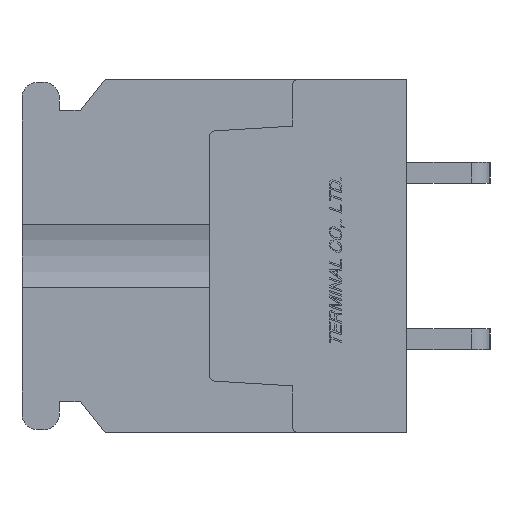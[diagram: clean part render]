
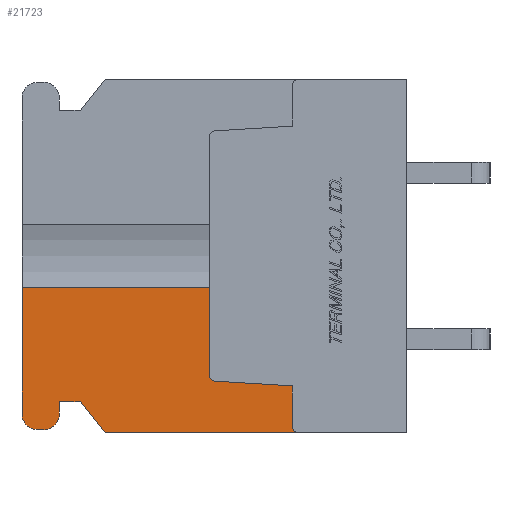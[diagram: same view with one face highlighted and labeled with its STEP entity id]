
A CAD part, left-side view. The second image highlights one B-rep face of the part: STEP entity #21723.
In plain terms, the highlighted planar face has unit normal (-1, 0, 0).
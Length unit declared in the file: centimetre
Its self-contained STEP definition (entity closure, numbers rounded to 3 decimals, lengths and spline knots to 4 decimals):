
#2696=VECTOR('',#27050,1.);
#2697=VECTOR('',#27051,1.);
#2698=VECTOR('',#27052,1.);
#2699=VECTOR('',#27055,1.);
#2700=VECTOR('',#27058,1.);
#2701=VECTOR('',#27059,1.);
#2702=VECTOR('',#27060,1.);
#2703=VECTOR('',#27061,1.);
#2704=VECTOR('',#27064,1.);
#2705=VECTOR('',#27065,1.);
#5006=LINE('',#33962,#2696);
#5007=LINE('',#33965,#2697);
#5008=LINE('',#33967,#2698);
#5009=LINE('',#33971,#2699);
#5010=LINE('',#33975,#2700);
#5011=LINE('',#33977,#2701);
#5012=LINE('',#33979,#2702);
#5013=LINE('',#33981,#2703);
#5014=LINE('',#33985,#2704);
#5015=LINE('',#33987,#2705);
#7267=VERTEX_POINT('',#33963);
#7268=VERTEX_POINT('',#33964);
#7269=VERTEX_POINT('',#33966);
#7270=VERTEX_POINT('',#33968);
#7271=VERTEX_POINT('',#33970);
#7272=VERTEX_POINT('',#33972);
#7273=VERTEX_POINT('',#33974);
#7274=VERTEX_POINT('',#33976);
#7275=VERTEX_POINT('',#33978);
#7276=VERTEX_POINT('',#33980);
#7277=VERTEX_POINT('',#33982);
#7278=VERTEX_POINT('',#33984);
#7279=VERTEX_POINT('',#33986);
#7280=VERTEX_POINT('',#33988);
#8182=CIRCLE('',#37138,0.075);
#8183=CIRCLE('',#37139,0.075);
#8184=CIRCLE('',#37140,0.03);
#8185=CIRCLE('',#37141,0.03);
#10909=EDGE_CURVE('',#7267,#7268,#5006,.T.);
#10910=EDGE_CURVE('',#7267,#7269,#5007,.T.);
#10911=EDGE_CURVE('',#7270,#7269,#5008,.T.);
#10912=EDGE_CURVE('',#7271,#7270,#8182,.T.);
#10913=EDGE_CURVE('',#7272,#7271,#5009,.T.);
#10914=EDGE_CURVE('',#7273,#7272,#8183,.T.);
#10915=EDGE_CURVE('',#7274,#7273,#5010,.T.);
#10916=EDGE_CURVE('',#7275,#7274,#5011,.T.);
#10917=EDGE_CURVE('',#7276,#7275,#5012,.T.);
#10918=EDGE_CURVE('',#7277,#7276,#5013,.T.);
#10919=EDGE_CURVE('',#7278,#7277,#8184,.T.);
#10920=EDGE_CURVE('',#7279,#7278,#5014,.T.);
#10921=EDGE_CURVE('',#7280,#7279,#5015,.T.);
#10922=EDGE_CURVE('',#7268,#7280,#8185,.T.);
#16700=ORIENTED_EDGE('',*,*,#10909,.F.);
#16701=ORIENTED_EDGE('',*,*,#10910,.T.);
#16702=ORIENTED_EDGE('',*,*,#10911,.F.);
#16703=ORIENTED_EDGE('',*,*,#10912,.F.);
#16704=ORIENTED_EDGE('',*,*,#10913,.F.);
#16705=ORIENTED_EDGE('',*,*,#10914,.F.);
#16706=ORIENTED_EDGE('',*,*,#10915,.F.);
#16707=ORIENTED_EDGE('',*,*,#10916,.F.);
#16708=ORIENTED_EDGE('',*,*,#10917,.F.);
#16709=ORIENTED_EDGE('',*,*,#10918,.F.);
#16710=ORIENTED_EDGE('',*,*,#10919,.F.);
#16711=ORIENTED_EDGE('',*,*,#10920,.F.);
#16712=ORIENTED_EDGE('',*,*,#10921,.F.);
#16713=ORIENTED_EDGE('',*,*,#10922,.F.);
#19126=EDGE_LOOP('',(#16700,#16701,#16702,#16703,#16704,#16705,#16706,#16707,
#16708,#16709,#16710,#16711,#16712,#16713));
#20474=FACE_BOUND('',#19126,.T.);
#21723=ADVANCED_FACE('',(#20474),#22591,.F.);
#22591=PLANE('',#37137);
#27049=DIRECTION('',(1.,0.,0.));
#27050=DIRECTION('',(0.,0.,-1.));
#27051=DIRECTION('',(0.,1.,0.));
#27052=DIRECTION('',(0.,0.,1.));
#27053=DIRECTION('',(1.,0.,0.));
#27054=DIRECTION('',(0.,0.,-0.075));
#27055=DIRECTION('',(0.,1.,0.));
#27056=DIRECTION('',(1.,0.,0.));
#27057=DIRECTION('',(0.,0.,-0.075));
#27058=DIRECTION('',(0.,0.,-1.));
#27059=DIRECTION('',(0.,1.,0.));
#27060=DIRECTION('',(0.,0.625,0.781));
#27061=DIRECTION('',(0.,1.,0.));
#27062=DIRECTION('',(-1.,0.,0.));
#27063=DIRECTION('',(0.,0.,0.03));
#27064=DIRECTION('',(0.,0.,-1.));
#27065=DIRECTION('',(0.,-0.998,-0.061));
#27066=DIRECTION('',(-1.,0.,0.));
#27067=DIRECTION('',(0.,0.,0.03));
#33961=CARTESIAN_POINT('',(-1.1,0.9454,0.));
#33962=CARTESIAN_POINT('',(-1.1,0.95,0.5718));
#33963=CARTESIAN_POINT('',(-1.1,0.95,-0.1521));
#33964=CARTESIAN_POINT('',(-1.1,0.95,-0.5718));
#33965=CARTESIAN_POINT('',(-1.1,1.4,-0.1521));
#33966=CARTESIAN_POINT('',(-1.1,1.85,-0.1521));
#33967=CARTESIAN_POINT('',(-1.1,1.85,-0.76));
#33968=CARTESIAN_POINT('',(-1.1,1.85,-0.76));
#33969=CARTESIAN_POINT('',(-1.1,1.775,-0.76));
#33970=CARTESIAN_POINT('',(-1.1,1.775,-0.835));
#33971=CARTESIAN_POINT('',(-1.1,1.745,-0.835));
#33972=CARTESIAN_POINT('',(-1.1,1.745,-0.835));
#33973=CARTESIAN_POINT('',(-1.1,1.745,-0.76));
#33974=CARTESIAN_POINT('',(-1.1,1.67,-0.76));
#33975=CARTESIAN_POINT('',(-1.1,1.67,-0.7));
#33976=CARTESIAN_POINT('',(-1.1,1.67,-0.7));
#33977=CARTESIAN_POINT('',(-1.1,1.57,-0.7));
#33978=CARTESIAN_POINT('',(-1.1,1.57,-0.7));
#33979=CARTESIAN_POINT('',(-1.1,1.45,-0.85));
#33980=CARTESIAN_POINT('',(-1.1,1.45,-0.85));
#33981=CARTESIAN_POINT('',(-1.1,0.,-0.85));
#33982=CARTESIAN_POINT('',(-1.1,0.52,-0.85));
#33983=CARTESIAN_POINT('',(-1.1,0.52,-0.82));
#33984=CARTESIAN_POINT('',(-1.1,0.55,-0.82));
#33985=CARTESIAN_POINT('',(-1.1,0.55,-0.6245));
#33986=CARTESIAN_POINT('',(-1.1,0.55,-0.6245));
#33987=CARTESIAN_POINT('',(-1.1,0.9218,-0.6017));
#33988=CARTESIAN_POINT('',(-1.1,0.9218,-0.6017));
#33989=CARTESIAN_POINT('',(-1.1,0.92,-0.5718));
#37137=AXIS2_PLACEMENT_3D('',#33961,#27049,$);
#37138=AXIS2_PLACEMENT_3D('',#33969,#27053,#27054);
#37139=AXIS2_PLACEMENT_3D('',#33973,#27056,#27057);
#37140=AXIS2_PLACEMENT_3D('',#33983,#27062,#27063);
#37141=AXIS2_PLACEMENT_3D('',#33989,#27066,#27067);
